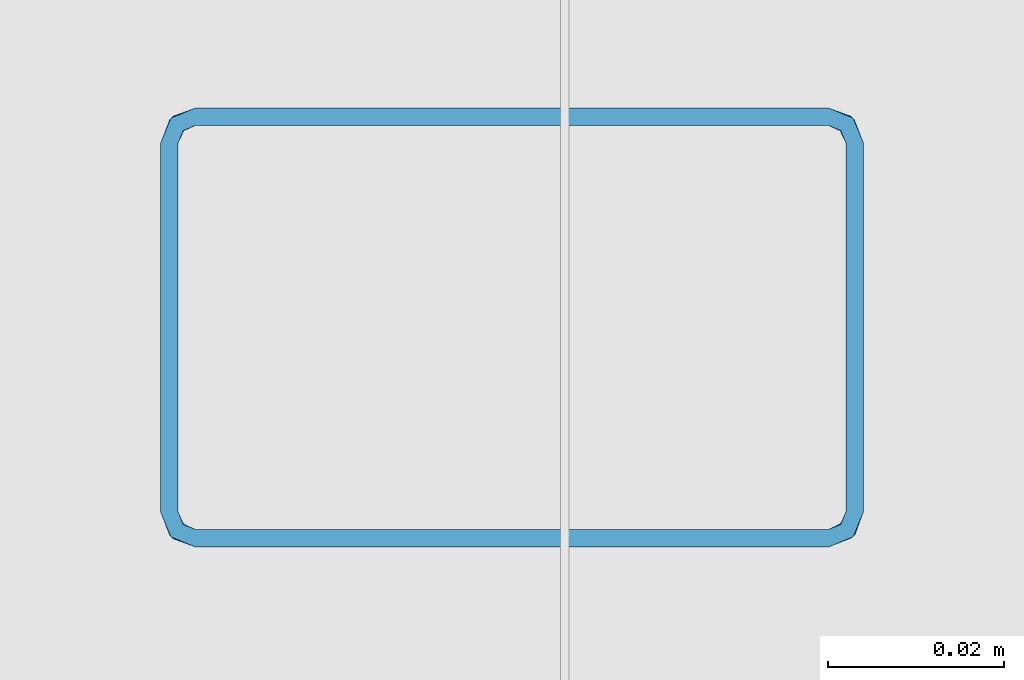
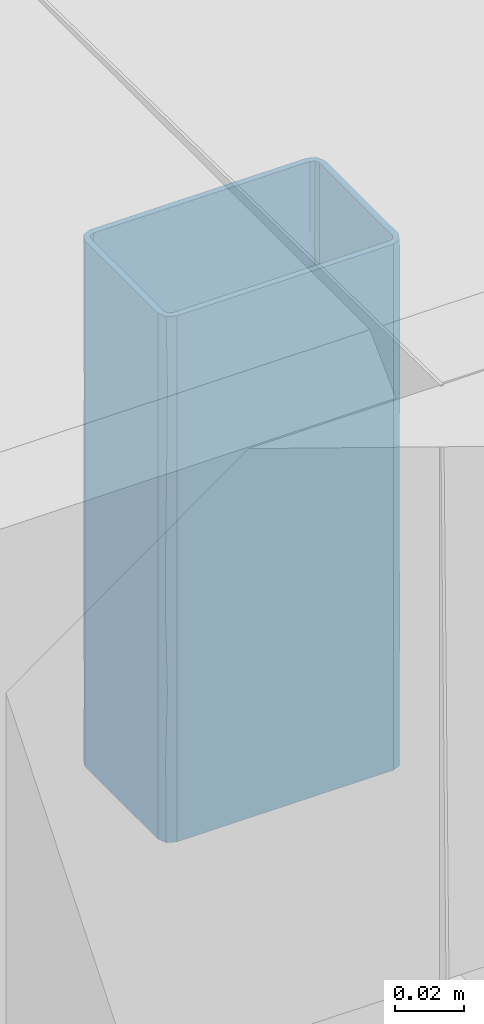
# One storey, part 155 of 186: 1 beam.
"""IFC4X3_ADD2 building model written with IfcOpenShell, lengths in millimetres."""

import ifcopenshell
import ifcopenshell.guid

model = None  # the IFC model being written
_history = None  # IfcOwnerHistory: only IFC2X3 demands one
_inside = {}  # id of a spatial element -> (the spatial element, [elements in it])
_under = {}  # id of a project, library or spatial element -> (it, [spatial elements below it])
_declared = {}  # id of a project -> (the project, [libraries it declares])
_typed = {}  # id of a type object -> (the type object, [elements of that type])
_made_of = {}  # id of a material, layer set ... -> (it, [elements and type objects made of it])


def new_model(schema):
    """Start an empty IFC model of exactly this schema.

    Asked for "IFC4X3", IfcOpenShell would pick the latest addendum, in which some entities
    have other attributes; the version numbers below select the first issue.
    IFC2X3 requires an IfcOwnerHistory on every rooted entity: one is made here for all.
    """
    global model, _history
    if schema == "IFC4X3":
        model = ifcopenshell.file(schema_version=(4, 3, 0, 0))
    else:
        model = ifcopenshell.file(schema=schema)
    _inside.clear()
    _under.clear()
    _declared.clear()
    _typed.clear()
    _made_of.clear()
    _history = None
    if model.schema == "IFC2X3":
        org = make("IfcOrganization", Name="unknown")
        user = make(
            "IfcPersonAndOrganization",
            ThePerson=make("IfcPerson", FamilyName="unknown"),
            TheOrganization=org,
        )
        app = make(
            "IfcApplication",
            ApplicationDeveloper=org,
            Version="unknown",
            ApplicationFullName="unknown",
            ApplicationIdentifier="unknown",
        )
        _history = make(
            "IfcOwnerHistory",
            OwningUser=user,
            OwningApplication=app,
            ChangeAction="ADDED",
            CreationDate=0,
        )
    return model


def make(cls, **values):
    """One entity of the class cls with the attributes given. An attribute that is None is left unset."""
    return model.create_entity(
        cls, **{name: value for name, value in values.items() if value is not None}
    )


def rooted(cls, **values):
    """An entity with a GlobalId (a new one), such as an element, a storey or a relation."""
    return make(cls, GlobalId=ifcopenshell.guid.new(), OwnerHistory=_history, **values)


def si_unit(unit_type, name, prefix=None):
    """IfcSIUnit, for example si_unit("LENGTHUNIT", "METRE", prefix="MILLI")."""
    return make("IfcSIUnit", UnitType=unit_type, Prefix=prefix, Name=name)


def assignment(units):
    """IfcUnitAssignment: the units of a project."""
    return None if units is None else make("IfcUnitAssignment", Units=units)


def point(xyz):
    """IfcCartesianPoint."""
    return None if xyz is None else make("IfcCartesianPoint", Coordinates=xyz)


def direction(xyz):
    """IfcDirection."""
    return None if xyz is None else make("IfcDirection", DirectionRatios=xyz)


def frame(location, z_axis=None, x_axis=None):
    """IfcAxis2Placement3D, a coordinate frame: its origin and axes. An axis left out is left unset."""
    return make(
        "IfcAxis2Placement3D",
        Location=point(location),
        Axis=direction(z_axis),
        RefDirection=direction(x_axis),
    )


def origin_with_axes():
    """The frame at (0, 0, 0) with the z axis (0, 0, 1) and the x axis (1, 0, 0) written out."""
    return frame((0.0, 0.0, 0.0), z_axis=(0.0, 0.0, 1.0), x_axis=(1.0, 0.0, 0.0))


def place(relative_to, where):
    """IfcLocalPlacement: puts the frame where relative to a parent placement (None: the world)."""
    return make(
        "IfcLocalPlacement", PlacementRelTo=relative_to, RelativePlacement=where
    )


def context(
    kind, dimensions, precision=None, world=None, true_north=None, identifier=None
):
    """IfcGeometricRepresentationContext, for example the 3D "Model" context."""
    return make(
        "IfcGeometricRepresentationContext",
        ContextIdentifier=identifier,
        ContextType=kind,
        CoordinateSpaceDimension=dimensions,
        Precision=precision,
        WorldCoordinateSystem=world,
        TrueNorth=true_north,
    )


def subcontext(parent, identifier, kind, view, scale=None):
    """IfcGeometricRepresentationSubContext, for example "Body" below "Model"."""
    return make(
        "IfcGeometricRepresentationSubContext",
        ContextIdentifier=identifier,
        ContextType=kind,
        ParentContext=parent,
        TargetScale=scale,
        TargetView=view,
    )


def project(units=None, contexts=None):
    """IfcProject with its units and contexts."""
    return rooted(
        "IfcProject",
        Name="project",
        RepresentationContexts=contexts,
        UnitsInContext=assignment(units),
    )


def spatial(cls, under=None, at=None, **own):
    """A site, building, storey or space (cls), placed at a placement, below another one or the project."""
    s = rooted(cls, ObjectPlacement=at, **own)
    if under is not None:
        _under.setdefault(under.id(), (under, []))[1].append(s)
    return s


def point_list(points):
    """IfcCartesianPointList2D or 3D."""
    cls = (
        "IfcCartesianPointList2D" if len(points[0]) == 2 else "IfcCartesianPointList3D"
    )
    return make(cls, CoordList=points)


def polygons(points, faces, closed=None, point_numbers=None):
    """IfcPolygonalFaceSet: a face is its outer loop, then its inner loops; points numbered from 1."""
    made = []
    for loops in faces:
        if len(loops) == 1:
            made.append(make("IfcIndexedPolygonalFace", CoordIndex=loops[0]))
        else:
            made.append(
                make(
                    "IfcIndexedPolygonalFaceWithVoids",
                    CoordIndex=loops[0],
                    InnerCoordIndices=loops[1:],
                )
            )
    return make(
        "IfcPolygonalFaceSet",
        Coordinates=point_list(points),
        Closed=closed,
        Faces=made,
        PnIndex=point_numbers,
    )


def shape(context_of_items, identifier, shape_type, items):
    """IfcShapeRepresentation: the items that make up one representation, for example the "Body"."""
    return make(
        "IfcShapeRepresentation",
        ContextOfItems=context_of_items,
        RepresentationIdentifier=identifier,
        RepresentationType=shape_type,
        Items=items,
    )


def made_of(thing, what):
    """Note that an element or type object is made of a material, layer set ...; save() writes the relation."""
    if what is not None:
        _made_of.setdefault(what.id(), (what, []))[1].append(thing)
    return thing


def element(
    cls,
    number,
    at=None,
    inside=None,
    cuts=None,
    type_object=None,
    material=None,
    context=None,
    identifier="Body",
    shape_type=None,
    held_by="IfcProductDefinitionShape",
    body=None,
    shapes=None,
    **own,
):
    """One element of the class cls, such as IfcWall. Its Tag is "e" and its number.

    at: its placement. inside: the storey or other place that contains it. cuts: it is an
    opening in that element (IfcRelVoidsElement). A single representation is given by context,
    identifier, shape_type and body (its items); several are given by shapes. held_by: the class
    of the entity that holds the representations. save() writes the other relations.
    """
    e = rooted(cls, Tag="e%d" % number, ObjectPlacement=at, **own)
    if body is not None:
        shapes = [shape(context, identifier, shape_type, body)]
    if shapes is not None:
        e.Representation = make(held_by, Representations=shapes)
    if inside is not None:
        _inside.setdefault(inside.id(), (inside, []))[1].append(e)
    if cuts is not None:
        rooted(
            "IfcRelVoidsElement", RelatingBuildingElement=cuts, RelatedOpeningElement=e
        )
    if type_object is not None:
        _typed.setdefault(type_object.id(), (type_object, []))[1].append(e)
    return made_of(e, material)


def aggregate(whole, parts):
    """IfcRelAggregates: a whole, such as a stair, and the parts it consists of."""
    return rooted("IfcRelAggregates", RelatingObject=whole, RelatedObjects=parts)


def save(model, path):
    """Write the relations noted so far, then the file.

    IfcRelAggregates (storeys below a building ...), IfcRelContainedInSpatialStructure (elements
    in a storey), IfcRelDefinesByType, IfcRelAssociatesMaterial and IfcRelDeclares: one each for
    every whole, place, type object, material and project.
    """
    for whole, parts in _under.values():
        aggregate(whole, parts)
    for where, things in _inside.values():
        rooted(
            "IfcRelContainedInSpatialStructure",
            RelatedElements=things,
            RelatingStructure=where,
        )
    for kind, things in _typed.values():
        rooted("IfcRelDefinesByType", RelatedObjects=things, RelatingType=kind)
    for what, things in _made_of.values():
        rooted("IfcRelAssociatesMaterial", RelatedObjects=things, RelatingMaterial=what)
    for by, libraries in _declared.values():
        rooted("IfcRelDeclares", RelatingContext=by, RelatedDefinitions=libraries)
    model.write(path)


model = new_model("IFC4X3_ADD2")

# Units and contexts
model_context = context("Model", 3, precision=1e-05, world=origin_with_axes(), true_north=direction((0.0, 1.0)))
body_context = subcontext(model_context, "Body", "Model", "MODEL_VIEW")
ifc_project = project(units=[si_unit("LENGTHUNIT", "METRE", prefix="MILLI"), si_unit("AREAUNIT", "SQUARE_METRE"), si_unit("VOLUMEUNIT", "CUBIC_METRE"), si_unit("PLANEANGLEUNIT", "RADIAN"), si_unit("TIMEUNIT", "SECOND"), si_unit("MASSUNIT", "GRAM")], contexts=[model_context])

# Site, building, storey
site_placement = place(None, origin_with_axes())
site = spatial("IfcSite", under=ifc_project, at=site_placement, Name="Site", CompositionType="ELEMENT")
building_placement = place(site_placement, origin_with_axes())
building = spatial("IfcBuilding", under=site, at=building_placement, Name="IFC Building Story")
storey_placement = place(building_placement, frame((0.0, 0.0, 4370.0), z_axis=(0.0, 0.0, 1.0), x_axis=(1.0, 0.0, 0.0)))
storey = spatial("IfcBuildingStorey", under=building, at=storey_placement, Name="ETAGE 10 (1)", Elevation=4370.0)

# Beam
beam_placement = place(storey_placement, frame((0.0, 0.0, -4370.0), z_axis=(0.0, 0.0, 1.0), x_axis=(1.0, 0.0, 0.0)))
element("IfcBeam", 1, at=beam_placement, inside=storey, Name="PS9", ObjectType="K50*80*2", context=body_context, shape_type="Tessellation", body=[
    polygons([(48394.18969887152, -236.00061034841, 7329.99958190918), (48396.18969887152, -236.00061034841, 7329.99958190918), (48393.60391243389, -237.4148239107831, 7329.99958190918), (48394.18969887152, -194.00061034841, 7329.99958190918), (48396.18969887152, -194.00061034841, 7329.99958190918), (48393.60391243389, -192.5863967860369, 7329.99958190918), (48395.01812599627, -191.1721832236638, 7329.99958190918), (48392.18969887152, -190.00061034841, 7329.99958190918), (48392.18969887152, -192.00061034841, 7329.99958190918), (48320.18969887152, -190.00061034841, 7329.99958190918), (48320.18969887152, -192.00061034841, 7329.99958190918), (48318.77548530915, -192.5863967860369, 7329.99958190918), (48317.36127174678, -191.1721832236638, 7329.99958190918), (48316.18969887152, -194.00061034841, 7329.99958190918), (48318.18969887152, -194.00061034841, 7329.99958190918), (48316.18969887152, -236.00061034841, 7329.99958190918), (48318.18969887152, -236.0006103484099, 7329.99958190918), (48318.77548530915, -237.4148239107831, 7329.99958190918), (48317.36127174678, -238.8290374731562, 7329.99958190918), (48320.18969887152, -240.00061034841, 7329.99958190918), (48320.18969887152, -238.00061034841, 7329.99958190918), (48392.18969887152, -238.00061034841, 7329.99958190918), (48392.18969887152, -240.00061034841, 7329.99958190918), (48395.01812599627, -238.8290374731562, 7329.99958190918), (48318.18969887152, -236.00061034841, 7514.999581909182), (48316.18969887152, -236.0006103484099, 7514.999581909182), (48318.77548530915, -237.4148239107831, 7514.999581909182), (48318.18969887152, -194.00061034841, 7514.999581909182), (48316.18969887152, -194.00061034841, 7514.999581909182), (48318.77548530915, -192.5863967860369, 7514.999581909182), (48317.36127174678, -191.1721832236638, 7514.999581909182), (48320.18969887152, -190.00061034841, 7514.999581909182), (48320.18969887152, -192.00061034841, 7514.999581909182), (48392.18969887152, -190.00061034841, 7514.999581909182), (48392.18969887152, -192.00061034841, 7514.999581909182), (48393.60391243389, -192.5863967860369, 7514.999581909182), (48395.01812599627, -191.1721832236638, 7514.999581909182), (48396.18969887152, -194.00061034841, 7514.999581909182), (48394.18969887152, -194.00061034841, 7514.999581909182), (48396.18969887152, -236.00061034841, 7514.999581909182), (48394.18969887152, -236.00061034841, 7514.999581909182), (48393.60391243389, -237.4148239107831, 7514.999581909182), (48395.01812599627, -238.8290374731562, 7514.999581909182), (48392.18969887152, -240.00061034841, 7514.999581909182), (48392.18969887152, -238.00061034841, 7514.999581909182), (48320.18969887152, -238.00061034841, 7514.999581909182), (48320.18969887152, -240.00061034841, 7514.999581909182), (48317.36127174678, -238.8290374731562, 7514.999581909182), (48392.18969887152, -240.00061034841, 7347.458101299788), (48392.18969887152, -240.00061034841, 7376.249581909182), (48392.18969887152, -240.00061034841, 7399.374580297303), (48392.18969887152, -240.00061034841, 7422.499581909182), (48392.18969887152, -240.00061034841, 7445.624583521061), (48392.18969887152, -240.00061034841, 7468.749581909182), (48392.18969887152, -240.00061034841, 7497.541062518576), (48320.18969887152, -240.00061034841, 7480.082537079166), (48320.18969887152, -240.00061034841, 7457.416627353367), (48320.18969887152, -240.00061034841, 7428.625150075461), (48320.18969887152, -240.00061034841, 7399.833672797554), (48320.18969887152, -240.00061034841, 7364.91662796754), (48317.50755934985, -238.9681223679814, 7468.749579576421), (48316.18969887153, -236.00061034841, 7497.541058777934), (48316.18969887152, -236.00061034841, 7347.458105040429), (48317.24136892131, -238.703821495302, 7359.346476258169), (48317.24793747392, -238.7109682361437, 7434.06207934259), (48316.18969887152, -236.00061034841, 7445.624581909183), (48317.24784257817, -238.7108652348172, 7408.867571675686), (48317.61035341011, -239.0578929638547, 7491.927046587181), (48316.18969887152, -236.00061034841, 7468.749581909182), (48317.62087706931, -239.0667405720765, 7383.292348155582), (48316.18969887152, -236.00061034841, 7422.499581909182), (48316.18969887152, -236.00061034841, 7399.374581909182), (48316.18969887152, -236.00061034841, 7376.249581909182), (48316.18969887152, -194.00061034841, 7497.54105919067), (48316.18969887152, -194.00061034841, 7468.749581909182), (48316.18969887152, -194.00061034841, 7445.624581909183), (48316.18969887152, -194.00061034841, 7422.499581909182), (48316.18969887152, -194.00061034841, 7399.374581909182), (48316.18969887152, -194.00061034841, 7376.24958190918), (48316.18969887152, -194.00061034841, 7347.458104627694), (48317.24136865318, -191.2973994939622, 7485.652677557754), (48317.61035335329, -190.9433277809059, 7353.072114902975), (48317.50755934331, -191.033098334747, 7376.249580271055), (48320.18969887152, -190.00061034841, 7364.916627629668), (48320.18969887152, -190.00061034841, 7387.582536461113), (48317.24793749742, -191.2902524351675, 7410.937079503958), (48320.18969887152, -190.00061034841, 7480.082536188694), (48317.62087693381, -190.934480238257, 7461.706806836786), (48317.24784267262, -191.2903553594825, 7436.131585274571), (48320.18969887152, -190.00061034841, 7445.165491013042), (48320.18969887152, -190.00061034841, 7416.374013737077), (48392.18969887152, -190.00061034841, 7480.082536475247), (48392.18969887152, -190.00061034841, 7451.291059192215), (48392.18969887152, -190.00061034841, 7422.499581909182), (48392.18969887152, -190.00061034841, 7399.374582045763), (48392.18969887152, -190.00061034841, 7376.249582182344), (48392.18969887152, -190.00061034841, 7347.458104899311), (48396.18969887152, -194.00061034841, 7364.916627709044), (48396.18969887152, -194.00061034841, 7399.833673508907), (48395.03013402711, -191.1842424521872, 7387.812080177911), (48396.18969887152, -194.00061034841, 7480.082536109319), (48395.01812587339, -191.1721831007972, 7468.749577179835), (48394.77783707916, -190.9507676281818, 7491.874578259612), (48394.84158208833, -191.0060293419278, 7363.777071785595), (48395.15720569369, -191.3184650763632, 7443.870651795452), (48395.08196542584, -191.2374972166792, 7420.819318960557), (48396.18969887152, -194.00061034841, 7457.41662691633), (48396.18969887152, -194.00061034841, 7428.62515021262), (48396.18969887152, -236.00061034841, 7480.082537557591), (48396.18969887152, -236.00061034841, 7457.416627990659), (48396.18969887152, -236.00061034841, 7428.625151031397), (48396.18969887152, -236.00061034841, 7399.833672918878), (48396.18969887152, -236.00061034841, 7364.916627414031), (48395.15721092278, -238.6827498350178, 7468.749579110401), (48394.89291002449, -238.9489402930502, 7359.346476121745), (48394.90005676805, -238.9423717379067, 7434.062078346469), (48394.8999537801, -238.9424666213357, 7408.867571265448), (48395.24698148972, -238.5799558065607, 7491.927046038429), (48395.2558291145, -238.5694321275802, 7383.292347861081), (48393.54969718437, -237.4670361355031, 7406.329640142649), (48394.18969887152, -236.00061034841, 7404.069820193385), (48393.50452049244, -237.5076750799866, 7393.984068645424), (48393.76840573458, -237.2284884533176, 7444.932419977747), (48393.66697753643, -237.3488120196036, 7434.149878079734), (48392.18969887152, -238.00061034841, 7445.624581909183), (48393.54969717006, -237.4670361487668, 7474.139560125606), (48394.18969887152, -236.00061034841, 7482.65970072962), (48394.18969887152, -236.00061034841, 7471.879740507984), (48394.18969887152, -236.00061034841, 7461.099780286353), (48393.67660218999, -237.3381896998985, 7422.218561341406), (48392.18969887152, -238.00061034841, 7422.499581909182), (48392.18969887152, -238.00061034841, 7502.654542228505), (48393.60391240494, -237.4148239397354, 7498.047100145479), (48392.18969887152, -238.0006103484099, 7490.309502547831), (48393.59526935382, -237.4234144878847, 7486.231226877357), (48394.18969887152, -236.00061034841, 7502.654542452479), (48394.18969887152, -236.00061034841, 7342.344621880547), (48393.60391245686, -237.4148238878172, 7348.517141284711), (48392.18969887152, -238.00061034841, 7342.344621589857), (48394.18969887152, -236.00061034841, 7416.414859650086), (48394.18969887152, -236.00061034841, 7367.034700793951), (48393.6503323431, -237.3668277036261, 7360.862180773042), (48393.60391247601, -237.4148238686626, 7373.20722027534), (48393.66236061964, -237.3538536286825, 7455.709798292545), (48392.18969887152, -238.00061034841, 7468.749581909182), (48394.18969887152, -236.00061034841, 7379.379740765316), (48394.18969887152, -236.00061034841, 7354.689661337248), (48392.18969887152, -238.00061034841, 7367.034700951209), (48392.18969887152, -238.00061034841, 7354.689661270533), (48394.18969887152, -236.00061034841, 7493.439660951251), (48392.18969887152, -238.00061034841, 7479.529542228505), (48394.18969887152, -236.00061034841, 7439.539859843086), (48394.18969887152, -236.00061034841, 7428.759899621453), (48394.18969887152, -236.00061034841, 7450.319820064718), (48392.18969887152, -238.00061034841, 7434.062081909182), (48392.18969887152, -238.00061034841, 7411.719621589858), (48392.18969887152, -238.00061034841, 7457.18708190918), (48392.18969887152, -238.00061034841, 7400.939661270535), (48394.18969887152, -236.00061034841, 7391.724780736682), (48393.74525367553, -237.2576900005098, 7383.68828868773), (48392.18969887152, -238.00061034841, 7390.15970095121), (48392.18969887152, -238.00061034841, 7379.379740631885), (48394.18969887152, -194.00061034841, 7502.654542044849), (48394.18969887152, -194.00061034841, 7490.309502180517), (48394.18969887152, -194.00061034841, 7479.529541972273), (48394.18969887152, -194.00061034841, 7468.749581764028), (48394.18969887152, -194.00061034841, 7457.187082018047), (48394.18969887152, -194.00061034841, 7445.624581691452), (48394.18969887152, -194.00061034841, 7434.062081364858), (48394.18969887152, -194.00061034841, 7422.499581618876), (48394.18969887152, -194.00061034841, 7410.937081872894), (48394.18969887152, -194.00061034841, 7399.374581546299), (48394.18969887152, -194.00061034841, 7387.812081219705), (48394.18969887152, -194.00061034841, 7376.249581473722), (48394.18969887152, -194.00061034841, 7365.469621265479), (48394.18969887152, -194.00061034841, 7354.689661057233), (48394.18969887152, -194.00061034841, 7342.344621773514), (48393.67373824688, -192.659854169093, 7439.843330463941), (48393.71384302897, -192.7056259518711, 7428.281218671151), (48393.50445206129, -192.493485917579, 7401.638518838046), (48393.67573843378, -192.6620714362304, 7416.718330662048), (48392.18969887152, -192.00061034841, 7405.459304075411), (48392.18969887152, -192.00061034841, 7342.344622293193), (48393.60391242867, -192.5863967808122, 7346.952061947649), (48392.18969887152, -192.00061034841, 7351.559502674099), (48393.65612468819, -192.6406120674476, 7360.079640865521), (48393.67827915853, -192.6648975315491, 7475.223688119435), (48393.66134988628, -192.6462679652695, 7462.968330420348), (48392.18969887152, -192.00061034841, 7428.584304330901), (48393.64418170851, -192.6278468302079, 7371.747873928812), (48392.18969887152, -192.00061034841, 7362.339462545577), (48392.18969887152, -192.00061034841, 7502.65454254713), (48392.18969887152, -192.00061034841, 7465.619423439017), (48393.60391244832, -192.5863968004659, 7496.482021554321), (48392.18969887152, -192.00061034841, 7490.30950318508), (48392.18969887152, -192.00061034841, 7453.274384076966), (48393.71340190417, -192.7051069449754, 7451.408622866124), (48392.18969887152, -192.00061034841, 7440.929343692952), (48393.54294218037, -192.5279486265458, 7389.289362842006), (48392.18969887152, -192.00061034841, 7394.679344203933), (48392.18969887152, -192.00061034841, 7383.899384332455), (48392.18969887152, -192.00061034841, 7373.119423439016), (48392.18969887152, -192.00061034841, 7477.964462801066), (48393.45954831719, -192.4554623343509, 7485.788710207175), (48392.18969887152, -192.00061034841, 7416.23926496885), (48320.18969887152, -192.00061034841, 7502.654543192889), (48320.18969887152, -192.00061034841, 7491.874581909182), (48320.18969887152, -192.00061034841, 7480.312081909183), (48320.18969887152, -192.00061034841, 7468.749581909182), (48320.18969887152, -192.00061034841, 7457.18708190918), (48320.18969887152, -192.00061034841, 7445.624581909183), (48320.18969887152, -192.00061034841, 7434.062081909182), (48320.18969887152, -192.00061034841, 7422.499581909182), (48320.18969887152, -192.00061034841, 7410.937081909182), (48320.18969887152, -192.00061034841, 7399.374581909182), (48320.18969887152, -192.00061034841, 7387.812081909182), (48320.18969887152, -192.00061034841, 7376.249581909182), (48320.18969887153, -192.00061034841, 7365.469620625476), (48320.18969887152, -192.00061034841, 7354.689660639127), (48320.18969887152, -192.00061034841, 7342.344620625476), (48318.8489427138, -192.5165709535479, 7439.843330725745), (48318.89471449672, -192.4764661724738, 7428.281218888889), (48318.68257445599, -192.6858571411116, 7401.63851911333), (48318.85115997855, -192.5145707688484, 7416.718330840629), (48318.18969887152, -194.00061034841, 7405.459303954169), (48318.90350509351, -192.4690407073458, 7485.918857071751), (48318.18969887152, -194.00061034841, 7342.344622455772), (48318.7754853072, -192.5863967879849, 7346.952061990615), (48318.18969887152, -194.00061034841, 7351.559502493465), (48318.18969887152, -194.00061034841, 7502.6545424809), (48318.82970059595, -192.5341845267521, 7360.079640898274), (48318.18969887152, -194.00061034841, 7465.619423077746), (48318.82438049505, -192.5391365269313, 7474.530830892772), (48318.18969887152, -194.00061034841, 7477.964462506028), (48318.70408041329, -192.6616040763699, 7459.446902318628), (48318.81693536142, -192.5461275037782, 7371.747873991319), (48318.18969887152, -194.00061034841, 7362.339462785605), (48318.18969887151, -194.00061034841, 7490.309503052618), (48318.77548532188, -192.5863967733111, 7497.264561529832), (48318.18969887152, -194.00061034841, 7428.584303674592), (48318.18969887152, -194.00061034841, 7453.274383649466), (48318.18969887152, -194.00061034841, 7440.929343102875), (48318.71703716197, -192.6473670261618, 7389.2893630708), (48318.18969887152, -194.00061034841, 7394.679343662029), (48318.18969887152, -194.00061034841, 7383.899383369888), (48318.18969887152, -194.00061034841, 7373.119423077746), (48318.18969887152, -194.00061034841, 7416.239264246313), (48318.18969887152, -236.0006103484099, 7502.65454300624), (48318.18969887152, -236.0006103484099, 7491.874582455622), (48318.18969887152, -236.0006103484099, 7480.312082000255), (48318.18969887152, -236.0006103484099, 7468.749581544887), (48318.18969887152, -236.0006103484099, 7457.187081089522), (48318.18969887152, -236.0006103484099, 7445.62458209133), (48318.18969887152, -236.0006103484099, 7434.062083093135), (48318.18969887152, -236.0006103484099, 7422.499582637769), (48318.18969887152, -236.0006103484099, 7410.9370821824), (48318.18969887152, -236.0006103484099, 7399.374581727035), (48318.18969887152, -236.0006103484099, 7387.812081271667), (48318.18969887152, -236.0006103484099, 7376.249582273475), (48318.18969887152, -236.00061034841, 7365.469621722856), (48318.18969887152, -236.0006103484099, 7354.689661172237), (48318.18969887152, -236.00061034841, 7342.344622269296), (48318.70565946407, -237.3413664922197, 7439.843330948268), (48318.66555468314, -237.29559470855, 7428.28121908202), (48318.87494565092, -237.5077347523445, 7401.638519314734), (48318.70365927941, -237.339149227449, 7416.718331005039), (48320.18969887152, -238.00061034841, 7405.459303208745), (48318.65812922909, -237.2868041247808, 7485.918857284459), (48320.18969887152, -238.0006103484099, 7342.344622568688), (48318.77548530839, -237.4148239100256, 7346.952062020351), (48320.18969887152, -238.00061034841, 7351.559503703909), (48320.18969887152, -238.00061034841, 7502.654541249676), (48318.72327304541, -237.3606086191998, 7360.079640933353), (48320.18969887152, -238.0006103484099, 7465.619421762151), (48318.7282250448, -237.3659287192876, 7474.530831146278), (48320.18969887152, -238.00061034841, 7477.964462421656), (48318.85069258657, -237.4862287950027, 7459.446902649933), (48318.73521602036, -237.3733738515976, 7371.747874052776), (48320.18969887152, -238.00061034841, 7362.339462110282), (48320.18969887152, -238.00061034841, 7490.309503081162), (48318.77548529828, -237.4148238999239, 7497.264561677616), (48320.18969887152, -238.00061034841, 7428.584302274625), (48320.18969887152, -238.00061034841, 7453.274383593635), (48320.18969887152, -238.00061034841, 7440.929342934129), (48318.83645553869, -237.473272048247, 7389.289363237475), (48320.18969887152, -238.00061034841, 7394.679342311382), (48320.18969887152, -238.00061034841, 7383.89938390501), (48320.18969887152, -238.00061034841, 7373.119423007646), (48320.18969887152, -238.00061034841, 7416.239264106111)], [[[1, 2, 3]], [[2, 1, 4]], [[4, 5, 2]], [[6, 5, 4]], [[7, 5, 6]], [[6, 8, 7]], [[6, 9, 8]], [[8, 9, 10]], [[11, 10, 9]], [[11, 12, 10]], [[10, 12, 13]], [[14, 13, 12]], [[14, 12, 15]], [[14, 15, 16]], [[17, 16, 15]], [[18, 16, 17]], [[16, 18, 19]], [[18, 20, 19]], [[21, 20, 18]], [[20, 21, 22]], [[3, 23, 22]], [[22, 23, 20]], [[3, 2, 24]], [[23, 3, 24]], [[25, 26, 27]], [[26, 25, 28]], [[28, 29, 26]], [[30, 29, 28]], [[31, 29, 30]], [[30, 32, 31]], [[30, 33, 32]], [[32, 33, 34]], [[35, 34, 33]], [[35, 36, 34]], [[34, 36, 37]], [[38, 37, 36]], [[38, 36, 39]], [[38, 39, 40]], [[41, 40, 39]], [[42, 40, 41]], [[40, 42, 43]], [[42, 44, 43]], [[45, 44, 42]], [[44, 45, 46]], [[27, 47, 46]], [[46, 47, 44]], [[27, 26, 48]], [[47, 27, 48]], [[55, 44, 47]], [[56, 57, 54]], [[54, 55, 47]], [[54, 47, 56]], [[57, 53, 54]], [[57, 58, 52]], [[57, 52, 53]], [[58, 59, 51]], [[58, 51, 52]], [[59, 60, 50]], [[59, 50, 51]], [[60, 20, 49]], [[60, 49, 50]], [[20, 23, 49]], [[61, 57, 56]], [[48, 26, 62]], [[63, 16, 19]], [[19, 20, 64]], [[61, 65, 57]], [[66, 65, 61]], [[67, 59, 58]], [[61, 68, 69]], [[61, 56, 68]], [[20, 60, 64]], [[67, 70, 59]], [[47, 48, 68]], [[64, 60, 70]], [[68, 62, 69]], [[58, 65, 67]], [[65, 66, 71]], [[61, 69, 66]], [[65, 71, 67]], [[57, 65, 58]], [[70, 72, 73]], [[72, 70, 67]], [[64, 73, 63]], [[60, 59, 70]], [[47, 68, 56]], [[62, 68, 48]], [[67, 71, 72]], [[73, 64, 70]], [[19, 64, 63]], [[62, 26, 29]], [[62, 29, 74]], [[74, 75, 69]], [[74, 69, 62]], [[75, 76, 66]], [[75, 66, 69]], [[76, 77, 71]], [[76, 71, 66]], [[77, 78, 72]], [[77, 72, 71]], [[78, 79, 73]], [[78, 73, 72]], [[79, 80, 63]], [[79, 63, 73]], [[80, 14, 16]], [[80, 16, 63]], [[31, 32, 81]], [[82, 79, 83]], [[84, 83, 85]], [[82, 80, 79]], [[83, 86, 85]], [[13, 14, 80]], [[74, 29, 31]], [[78, 86, 83]], [[81, 32, 87]], [[87, 88, 81]], [[89, 90, 91]], [[89, 88, 90]], [[10, 13, 82]], [[83, 84, 82]], [[91, 86, 89]], [[86, 78, 77]], [[83, 79, 78]], [[86, 77, 89]], [[85, 86, 91]], [[88, 76, 75]], [[76, 88, 89]], [[81, 75, 74]], [[87, 90, 88]], [[10, 82, 84]], [[80, 82, 13]], [[89, 77, 76]], [[75, 81, 88]], [[31, 81, 74]], [[87, 32, 34]], [[87, 34, 92]], [[92, 93, 90]], [[92, 90, 87]], [[93, 94, 91]], [[93, 91, 90]], [[95, 96, 85]], [[85, 91, 94]], [[85, 94, 95]], [[96, 84, 85]], [[97, 8, 10]], [[97, 10, 84]], [[84, 96, 97]], [[98, 5, 7]], [[99, 98, 100]], [[101, 102, 103]], [[7, 97, 104]], [[37, 103, 34]], [[94, 105, 106]], [[93, 102, 105]], [[96, 100, 104]], [[105, 102, 107]], [[38, 101, 103]], [[100, 106, 99]], [[7, 8, 97]], [[101, 107, 102]], [[105, 94, 93]], [[103, 102, 92]], [[93, 92, 102]], [[107, 108, 105]], [[105, 108, 106]], [[34, 103, 92]], [[103, 37, 38]], [[108, 99, 106]], [[96, 95, 100]], [[100, 95, 106]], [[95, 94, 106]], [[104, 100, 98]], [[7, 104, 98]], [[97, 96, 104]], [[101, 38, 40]], [[101, 40, 109]], [[109, 110, 107]], [[109, 107, 101]], [[110, 111, 108]], [[110, 108, 107]], [[111, 112, 99]], [[111, 99, 108]], [[112, 113, 98]], [[112, 98, 99]], [[113, 2, 5]], [[113, 5, 98]], [[114, 110, 109]], [[43, 44, 55]], [[49, 23, 24]], [[24, 2, 115]], [[114, 116, 110]], [[53, 116, 114]], [[117, 112, 111]], [[114, 118, 54]], [[114, 109, 118]], [[2, 113, 115]], [[117, 119, 112]], [[40, 43, 118]], [[115, 113, 119]], [[118, 55, 54]], [[111, 116, 117]], [[116, 53, 52]], [[114, 54, 53]], [[116, 52, 117]], [[110, 116, 111]], [[119, 51, 50]], [[51, 119, 117]], [[115, 50, 49]], [[113, 112, 119]], [[40, 118, 109]], [[55, 118, 43]], [[117, 52, 51]], [[50, 115, 119]], [[24, 115, 49]], [[120, 121, 122]], [[123, 124, 125]], [[126, 127, 128, 129]], [[124, 130, 131]], [[132, 42, 133]], [[134, 133, 135]], [[42, 41, 136]], [[137, 1, 3]], [[138, 3, 139]], [[120, 130, 140]], [[141, 142, 143]], [[144, 145, 126]], [[141, 143, 146]], [[137, 138, 147]], [[148, 142, 149]], [[42, 136, 133]], [[150, 133, 136]], [[3, 22, 139]], [[132, 45, 42]], [[3, 138, 137]], [[133, 134, 132]], [[150, 127, 135]], [[135, 126, 151]], [[150, 135, 133]], [[151, 126, 145]], [[152, 153, 124]], [[129, 154, 144]], [[124, 131, 155, 125]], [[130, 120, 156]], [[144, 154, 123]], [[157, 145, 144, 125]], [[129, 144, 126]], [[152, 123, 154]], [[158, 120, 122]], [[142, 138, 149]], [[142, 141, 147]], [[149, 138, 139]], [[159, 122, 121]], [[153, 130, 124]], [[159, 160, 122]], [[156, 120, 158]], [[121, 120, 140]], [[143, 160, 146]], [[161, 158, 122]], [[143, 162, 160]], [[148, 162, 143]], [[143, 142, 148]], [[138, 142, 147]], [[144, 123, 125]], [[124, 123, 152]], [[134, 135, 151]], [[135, 127, 126]], [[146, 160, 159]], [[162, 161, 160]], [[161, 122, 160]], [[156, 131, 130]], [[140, 130, 153]], [[136, 41, 39]], [[136, 39, 163]], [[163, 164, 150]], [[163, 150, 136]], [[164, 165, 127]], [[164, 127, 150]], [[165, 166, 128]], [[165, 128, 127]], [[166, 167, 129]], [[166, 129, 128]], [[167, 168, 154]], [[167, 154, 129]], [[168, 169, 152]], [[168, 152, 154]], [[169, 153, 152]], [[170, 171, 140]], [[140, 153, 169]], [[140, 169, 170]], [[171, 172, 121]], [[171, 121, 140]], [[172, 173, 159]], [[172, 159, 121]], [[173, 174, 146]], [[173, 146, 159]], [[174, 175, 141]], [[174, 141, 146]], [[175, 176, 147]], [[175, 147, 141]], [[176, 177, 137]], [[176, 137, 147]], [[177, 4, 1]], [[177, 1, 137]], [[178, 179, 169]], [[180, 181, 182]], [[163, 39, 36]], [[6, 4, 177]], [[183, 6, 184, 185]], [[176, 175, 186]], [[187, 188, 166]], [[166, 188, 167]], [[189, 179, 178]], [[190, 186, 175]], [[186, 190, 191]], [[183, 9, 6]], [[35, 192, 36]], [[187, 193, 188]], [[163, 194, 164]], [[195, 194, 192]], [[185, 186, 191]], [[36, 194, 163]], [[196, 197, 188]], [[169, 168, 178]], [[6, 177, 176, 184]], [[198, 189, 178]], [[186, 185, 184]], [[199, 200, 201]], [[176, 186, 184]], [[202, 191, 190, 201]], [[36, 192, 194]], [[190, 199, 201]], [[179, 181, 170]], [[197, 196, 198]], [[178, 168, 197]], [[193, 196, 188]], [[197, 167, 188]], [[187, 203, 193]], [[195, 204, 194]], [[165, 164, 204]], [[180, 199, 172]], [[172, 199, 174, 173]], [[199, 190, 174]], [[180, 200, 199]], [[205, 182, 181, 189]], [[171, 181, 180]], [[204, 195, 203]], [[187, 165, 204]], [[170, 181, 171]], [[180, 172, 171]], [[169, 179, 170]], [[181, 179, 189]], [[167, 197, 168]], [[198, 178, 197]], [[182, 200, 180]], [[187, 166, 165]], [[194, 204, 164]], [[187, 204, 203]], [[174, 190, 175]], [[192, 35, 33]], [[192, 33, 206]], [[206, 207, 195]], [[206, 195, 192]], [[207, 208, 203]], [[207, 203, 195]], [[208, 209, 193]], [[208, 193, 203]], [[209, 210, 196]], [[209, 196, 193]], [[210, 211, 198]], [[210, 198, 196]], [[211, 212, 189]], [[211, 189, 198]], [[213, 214, 205]], [[213, 205, 189]], [[189, 212, 213]], [[214, 182, 205]], [[214, 215, 200]], [[214, 200, 182]], [[215, 216, 201]], [[215, 201, 200]], [[216, 217, 202]], [[216, 202, 201]], [[217, 218, 191]], [[217, 191, 202]], [[218, 219, 185]], [[218, 185, 191]], [[219, 220, 183]], [[219, 183, 185]], [[220, 11, 9]], [[220, 9, 183]], [[221, 222, 212]], [[223, 224, 225]], [[208, 207, 226]], [[227, 15, 12]], [[227, 12, 228]], [[228, 229, 227]], [[30, 28, 230]], [[219, 218, 231]], [[232, 233, 234]], [[233, 235, 209]], [[208, 233, 209]], [[236, 231, 218]], [[231, 236, 237]], [[238, 226, 239]], [[206, 239, 207]], [[208, 226, 233]], [[206, 33, 30]], [[12, 11, 220, 228]], [[229, 231, 237]], [[30, 230, 239]], [[30, 239, 206]], [[239, 230, 238]], [[240, 222, 221]], [[221, 235, 241]], [[212, 211, 221]], [[242, 240, 221, 241]], [[228, 220, 219]], [[231, 229, 228]], [[243, 244, 245]], [[219, 231, 228]], [[246, 237, 236, 245]], [[241, 235, 232]], [[238, 234, 226]], [[222, 224, 213]], [[210, 209, 235, 211]], [[235, 221, 211]], [[236, 243, 245]], [[223, 243, 215]], [[215, 243, 217, 216]], [[243, 236, 217]], [[223, 244, 243]], [[247, 225, 224, 240]], [[214, 224, 223]], [[213, 224, 214]], [[223, 215, 214]], [[232, 235, 233]], [[212, 222, 213]], [[224, 222, 240]], [[234, 233, 226]], [[239, 226, 207]], [[225, 244, 223]], [[217, 236, 218]], [[230, 28, 25]], [[230, 25, 248]], [[248, 249, 238]], [[248, 238, 230]], [[249, 250, 234]], [[249, 234, 238]], [[250, 251, 232]], [[250, 232, 234]], [[251, 252, 241]], [[251, 241, 232]], [[252, 253, 242]], [[252, 242, 241]], [[253, 254, 240]], [[253, 240, 242]], [[255, 256, 247]], [[255, 247, 240]], [[240, 254, 255]], [[256, 225, 247]], [[256, 257, 244]], [[256, 244, 225]], [[257, 258, 245]], [[257, 245, 244]], [[258, 259, 246]], [[258, 246, 245]], [[259, 260, 237]], [[259, 237, 246]], [[260, 261, 229]], [[260, 229, 237]], [[261, 262, 227]], [[261, 227, 229]], [[262, 17, 15]], [[262, 15, 227]], [[263, 264, 254]], [[265, 266, 267]], [[250, 249, 268]], [[269, 21, 18]], [[269, 18, 270]], [[270, 271, 269]], [[27, 46, 272]], [[261, 260, 273]], [[274, 275, 276]], [[275, 277, 251]], [[250, 275, 251]], [[278, 273, 260]], [[273, 278, 279]], [[280, 268, 281]], [[248, 27, 281, 249]], [[250, 268, 275]], [[248, 25, 27]], [[262, 261, 270]], [[270, 18, 17]], [[270, 17, 262]], [[271, 273, 279]], [[27, 272, 281]], [[281, 272, 280]], [[282, 264, 263]], [[263, 277, 283]], [[254, 253, 263]], [[284, 282, 263, 283]], [[273, 271, 270]], [[285, 286, 287]], [[261, 273, 270]], [[288, 279, 278, 287]], [[283, 277, 274]], [[280, 276, 268]], [[264, 266, 255]], [[252, 251, 277, 253]], [[277, 263, 253]], [[278, 285, 287]], [[265, 285, 257]], [[257, 285, 259, 258]], [[285, 278, 259]], [[265, 286, 285]], [[289, 267, 266, 282]], [[256, 266, 265]], [[255, 266, 256]], [[265, 257, 256]], [[274, 277, 275]], [[254, 264, 255]], [[266, 264, 282]], [[276, 275, 268]], [[281, 268, 249]], [[267, 286, 265]], [[259, 278, 260]], [[272, 46, 45]], [[272, 45, 132]], [[132, 134, 280]], [[132, 280, 272]], [[134, 151, 276]], [[134, 276, 280]], [[151, 145, 274]], [[151, 274, 276]], [[145, 157, 283]], [[145, 283, 274]], [[157, 125, 284]], [[157, 284, 283]], [[125, 155, 282]], [[125, 282, 284]], [[131, 156, 289]], [[131, 289, 282]], [[282, 155, 131]], [[156, 158, 267]], [[156, 267, 289]], [[158, 161, 286]], [[158, 286, 267]], [[161, 162, 287]], [[161, 287, 286]], [[162, 148, 288]], [[162, 288, 287]], [[148, 279, 288]], [[148, 149, 271]], [[148, 271, 279]], [[149, 139, 269]], [[149, 269, 271]], [[139, 22, 21]], [[139, 21, 269]]]),
])

save(model, "model.ifc")
